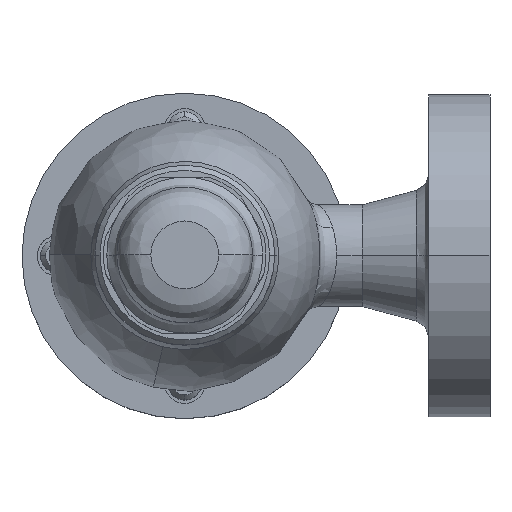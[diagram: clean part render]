
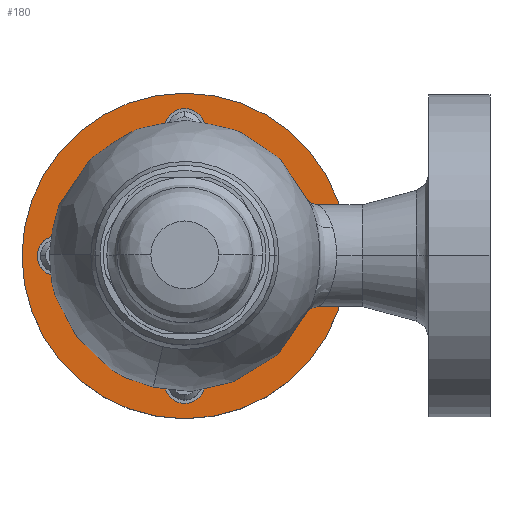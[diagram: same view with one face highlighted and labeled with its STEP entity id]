
A CAD part, top view. The second image highlights one B-rep face of the part: STEP entity #180.
In plain terms, the highlighted planar face has unit normal (0, 0, 1).
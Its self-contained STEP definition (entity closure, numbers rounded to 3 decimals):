
#180=ADVANCED_FACE('',(#358,#359),#357,.F.);
#357=PLANE('',#1780);
#358=FACE_OUTER_BOUND('',#1781,.T.);
#359=FACE_BOUND('',#1782,.T.);
#1777=CARTESIAN_POINT('',(106.,-93.138,-37.));
#1778=DIRECTION('',(0.,0.,-1.));
#1779=DIRECTION('',(-1.,0.,0.));
#1780=AXIS2_PLACEMENT_3D('',#1777,#1778,#1779);
#1781=EDGE_LOOP('',(#3284,#3285));
#1782=EDGE_LOOP('',(#3286,#3287,#3288,#3289,#3290,#3291,#3292,#3293,#3294,#3295,#3296,#3297,#3298,#3299));
#3284=ORIENTED_EDGE('',*,*,#3984,.F.);
#3285=ORIENTED_EDGE('',*,*,#3985,.F.);
#3286=ORIENTED_EDGE('',*,*,#3986,.T.);
#3287=ORIENTED_EDGE('',*,*,#3987,.T.);
#3288=ORIENTED_EDGE('',*,*,#3988,.T.);
#3289=ORIENTED_EDGE('',*,*,#3989,.T.);
#3290=ORIENTED_EDGE('',*,*,#3990,.T.);
#3291=ORIENTED_EDGE('',*,*,#3991,.T.);
#3292=ORIENTED_EDGE('',*,*,#3992,.T.);
#3293=ORIENTED_EDGE('',*,*,#3993,.T.);
#3294=ORIENTED_EDGE('',*,*,#3994,.T.);
#3295=ORIENTED_EDGE('',*,*,#3995,.T.);
#3296=ORIENTED_EDGE('',*,*,#3996,.T.);
#3297=ORIENTED_EDGE('',*,*,#3997,.T.);
#3298=ORIENTED_EDGE('',*,*,#3998,.T.);
#3299=ORIENTED_EDGE('',*,*,#3999,.T.);
#3984=EDGE_CURVE('',#4406,#4407,#4408,.T.);
#3985=EDGE_CURVE('',#4407,#4406,#4414,.T.);
#3986=EDGE_CURVE('',#4420,#4421,#4422,.T.);
#3987=EDGE_CURVE('',#4421,#4428,#4429,.T.);
#3988=EDGE_CURVE('',#4428,#4435,#4436,.T.);
#3989=EDGE_CURVE('',#4435,#4442,#4443,.T.);
#3990=EDGE_CURVE('',#4442,#4449,#4450,.T.);
#3991=EDGE_CURVE('',#4449,#4456,#4457,.T.);
#3992=EDGE_CURVE('',#4456,#4463,#4464,.T.);
#3993=EDGE_CURVE('',#4463,#4470,#4471,.T.);
#3994=EDGE_CURVE('',#4470,#4477,#4478,.T.);
#3995=EDGE_CURVE('',#4477,#4484,#4485,.T.);
#3996=EDGE_CURVE('',#4484,#4491,#4492,.T.);
#3997=EDGE_CURVE('',#4491,#4498,#4499,.T.);
#3998=EDGE_CURVE('',#4498,#4505,#4506,.T.);
#3999=EDGE_CURVE('',#4505,#4420,#4512,.T.);
#4406=VERTEX_POINT('',#6706);
#4407=VERTEX_POINT('',#6707);
#4408=CIRCLE('',#6711,48.);
#4414=CIRCLE('',#6715,48.);
#4420=VERTEX_POINT('',#6716);
#4421=VERTEX_POINT('',#6717);
#4422=CIRCLE('',#6721,34.5);
#4428=VERTEX_POINT('',#6722);
#4429=CIRCLE('',#6726,6.);
#4435=VERTEX_POINT('',#6727);
#4436=CIRCLE('',#6731,6.);
#4442=VERTEX_POINT('',#6732);
#4443=CIRCLE('',#6736,34.5);
#4449=VERTEX_POINT('',#6737);
#4450=CIRCLE('',#6741,6.);
#4456=VERTEX_POINT('',#6742);
#4457=CIRCLE('',#6746,6.);
#4463=VERTEX_POINT('',#6747);
#4464=CIRCLE('',#6751,6.);
#4470=VERTEX_POINT('',#6752);
#4471=CIRCLE('',#6756,34.5);
#4477=VERTEX_POINT('',#6757);
#4478=CIRCLE('',#6761,6.);
#4484=VERTEX_POINT('',#6762);
#4485=CIRCLE('',#6766,6.);
#4491=VERTEX_POINT('',#6767);
#4492=CIRCLE('',#6771,34.5);
#4498=VERTEX_POINT('',#6772);
#4499=CIRCLE('',#6776,6.);
#4505=VERTEX_POINT('',#6777);
#4506=CIRCLE('',#6781,6.);
#4512=CIRCLE('',#6785,6.);
#6706=CARTESIAN_POINT('',(48.,0.,-37.));
#6707=CARTESIAN_POINT('',(-48.,0.,-37.));
#6708=CARTESIAN_POINT('',(0.,0.,-37.));
#6709=DIRECTION('',(0.,0.,-1.));
#6710=DIRECTION('',(-1.,0.,0.));
#6711=AXIS2_PLACEMENT_3D('',#6708,#6709,#6710);
#6712=CARTESIAN_POINT('',(0.,0.,-37.));
#6713=DIRECTION('',(0.,0.,-1.));
#6714=DIRECTION('',(-1.,0.,0.));
#6715=AXIS2_PLACEMENT_3D('',#6712,#6713,#6714);
#6716=CARTESIAN_POINT('',(-4.971,-34.14,-37.));
#6717=CARTESIAN_POINT('',(-34.14,-4.971,-37.));
#6718=CARTESIAN_POINT('',(0.,0.,-37.));
#6719=DIRECTION('',(0.,0.,-1.));
#6720=DIRECTION('',(1.,0.,0.));
#6721=AXIS2_PLACEMENT_3D('',#6718,#6719,#6720);
#6722=CARTESIAN_POINT('',(-43.5,0.,-37.));
#6723=CARTESIAN_POINT('',(-37.5,0.,-37.));
#6724=DIRECTION('',(0.,0.,-1.));
#6725=DIRECTION('',(1.,0.,0.));
#6726=AXIS2_PLACEMENT_3D('',#6723,#6724,#6725);
#6727=CARTESIAN_POINT('',(-34.14,4.971,-37.));
#6728=CARTESIAN_POINT('',(-37.5,0.,-37.));
#6729=DIRECTION('',(0.,0.,-1.));
#6730=DIRECTION('',(1.,0.,0.));
#6731=AXIS2_PLACEMENT_3D('',#6728,#6729,#6730);
#6732=CARTESIAN_POINT('',(-4.971,34.14,-37.));
#6733=CARTESIAN_POINT('',(0.,0.,-37.));
#6734=DIRECTION('',(0.,0.,-1.));
#6735=DIRECTION('',(1.,0.,0.));
#6736=AXIS2_PLACEMENT_3D('',#6733,#6734,#6735);
#6737=CARTESIAN_POINT('',(-6.,37.502,-37.));
#6738=CARTESIAN_POINT('',(0.,37.5,-37.));
#6739=DIRECTION('',(0.,0.,-1.));
#6740=DIRECTION('',(-0.828,-0.56,0.));
#6741=AXIS2_PLACEMENT_3D('',#6738,#6739,#6740);
#6742=CARTESIAN_POINT('',(6.,37.5,-37.));
#6743=CARTESIAN_POINT('',(0.,37.5,-37.));
#6744=DIRECTION('',(0.,0.,-1.));
#6745=DIRECTION('',(-0.828,-0.56,0.));
#6746=AXIS2_PLACEMENT_3D('',#6743,#6744,#6745);
#6747=CARTESIAN_POINT('',(4.971,34.14,-37.));
#6748=CARTESIAN_POINT('',(0.,37.5,-37.));
#6749=DIRECTION('',(0.,0.,-1.));
#6750=DIRECTION('',(-0.828,-0.56,0.));
#6751=AXIS2_PLACEMENT_3D('',#6748,#6749,#6750);
#6752=CARTESIAN_POINT('',(34.14,4.971,-37.));
#6753=CARTESIAN_POINT('',(0.,0.,-37.));
#6754=DIRECTION('',(0.,0.,-1.));
#6755=DIRECTION('',(1.,0.,0.));
#6756=AXIS2_PLACEMENT_3D('',#6753,#6754,#6755);
#6757=CARTESIAN_POINT('',(43.5,0.,-37.));
#6758=CARTESIAN_POINT('',(37.5,0.,-37.));
#6759=DIRECTION('',(0.,0.,-1.));
#6760=DIRECTION('',(-0.56,0.828,0.));
#6761=AXIS2_PLACEMENT_3D('',#6758,#6759,#6760);
#6762=CARTESIAN_POINT('',(34.14,-4.971,-37.));
#6763=CARTESIAN_POINT('',(37.5,0.,-37.));
#6764=DIRECTION('',(0.,0.,-1.));
#6765=DIRECTION('',(-0.56,0.828,0.));
#6766=AXIS2_PLACEMENT_3D('',#6763,#6764,#6765);
#6767=CARTESIAN_POINT('',(4.971,-34.14,-37.));
#6768=CARTESIAN_POINT('',(0.,0.,-37.));
#6769=DIRECTION('',(0.,0.,-1.));
#6770=DIRECTION('',(1.,0.,0.));
#6771=AXIS2_PLACEMENT_3D('',#6768,#6769,#6770);
#6772=CARTESIAN_POINT('',(6.,-37.5,-37.));
#6773=CARTESIAN_POINT('',(0.,-37.5,-37.));
#6774=DIRECTION('',(0.,0.,-1.));
#6775=DIRECTION('',(0.828,0.56,0.));
#6776=AXIS2_PLACEMENT_3D('',#6773,#6774,#6775);
#6777=CARTESIAN_POINT('',(-6.,-37.502,-37.));
#6778=CARTESIAN_POINT('',(0.,-37.5,-37.));
#6779=DIRECTION('',(0.,0.,-1.));
#6780=DIRECTION('',(0.828,0.56,0.));
#6781=AXIS2_PLACEMENT_3D('',#6778,#6779,#6780);
#6782=CARTESIAN_POINT('',(0.,-37.5,-37.));
#6783=DIRECTION('',(0.,0.,-1.));
#6784=DIRECTION('',(0.828,0.56,0.));
#6785=AXIS2_PLACEMENT_3D('',#6782,#6783,#6784);
